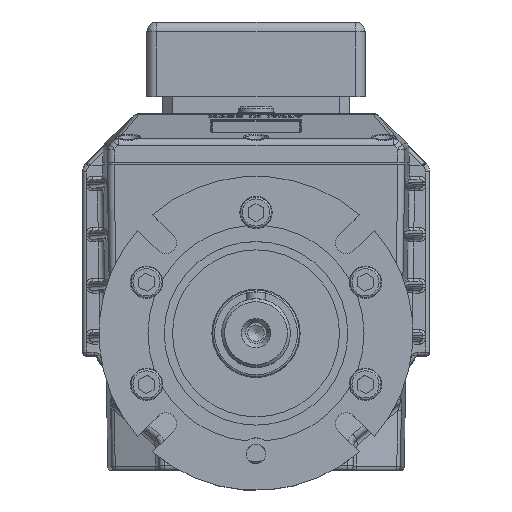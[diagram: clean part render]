
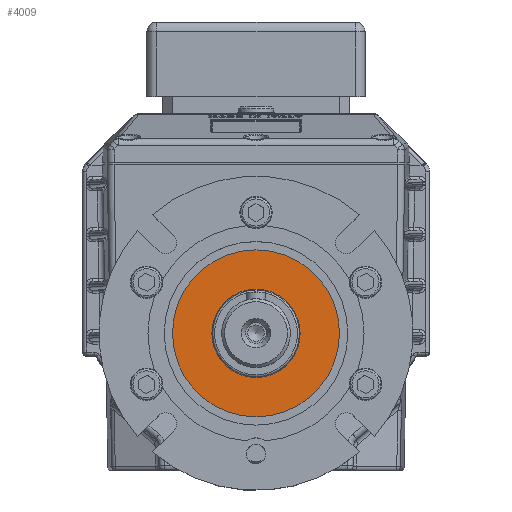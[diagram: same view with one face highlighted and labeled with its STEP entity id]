
A CAD part, top view. The second image highlights one B-rep face of the part: STEP entity #4009.
In plain terms, the highlighted planar face has unit normal (0, 0, 1).
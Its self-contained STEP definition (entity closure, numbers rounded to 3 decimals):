
#4009 = ADVANCED_FACE( '', ( #8744, #8745 ), #8746, .F. );
#8744 = FACE_BOUND( '', #19591, .T. );
#8745 = FACE_OUTER_BOUND( '', #19592, .T. );
#8746 = PLANE( '', #19593 );
#19591 = EDGE_LOOP( '', ( #33095 ) );
#19592 = EDGE_LOOP( '', ( #33096 ) );
#19593 = AXIS2_PLACEMENT_3D( '', #33097, #33098, #33099 );
#33095 = ORIENTED_EDGE( '', *, *, #41394, .T. );
#33096 = ORIENTED_EDGE( '', *, *, #37882, .F. );
#33097 = CARTESIAN_POINT( '', ( 0., 0., 12. ) );
#33098 = DIRECTION( '', ( 0., 0., -1. ) );
#33099 = DIRECTION( '', ( 1., 0., 0. ) );
#37882 = EDGE_CURVE( '', #43754, #43754, #43755, .T. );
#41394 = EDGE_CURVE( '', #49237, #49237, #49238, .T. );
#43754 = VERTEX_POINT( '', #52459 );
#43755 = CIRCLE( '', #52460, 42.5 );
#49237 = VERTEX_POINT( '', #64488 );
#49238 = CIRCLE( '', #64489, 22.5 );
#52459 = CARTESIAN_POINT( '', ( 0., 42.5, 12. ) );
#52460 = AXIS2_PLACEMENT_3D( '', #69144, #69145, #69146 );
#64488 = CARTESIAN_POINT( '', ( 0., 22.5, 12. ) );
#64489 = AXIS2_PLACEMENT_3D( '', #72800, #72801, #72802 );
#69144 = CARTESIAN_POINT( '', ( 0., 0., 12. ) );
#69145 = DIRECTION( '', ( 0., 0., -1. ) );
#69146 = DIRECTION( '', ( 0., 1., 0. ) );
#72800 = CARTESIAN_POINT( '', ( 0., 0., 12. ) );
#72801 = DIRECTION( '', ( 0., 0., -1. ) );
#72802 = DIRECTION( '', ( 0., 1., 0. ) );
